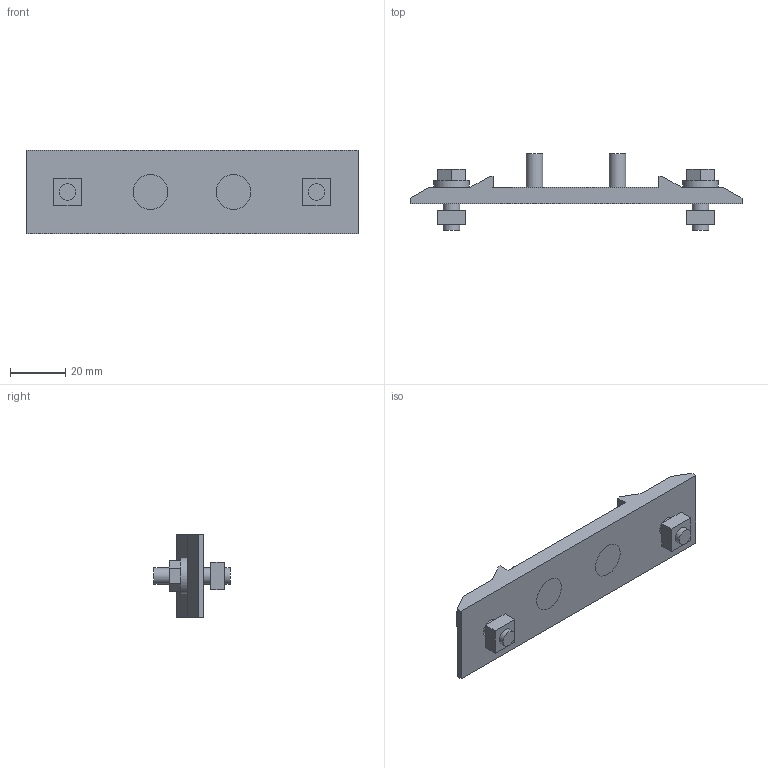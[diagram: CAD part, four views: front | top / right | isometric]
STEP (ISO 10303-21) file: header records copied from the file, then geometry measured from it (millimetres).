
FILE_DESCRIPTION((''),'2;1');
FILE_NAME('C:\Documents and Settings\古川典政\My Documents\Inventor\HP用\MasterData\BRACKET\M6\ABJF-6030-6.stp','2008-07-31T09:14:47',(''),(''),'Autodesk Inventor 2008','Autodesk Inventor 2008','');
FILE_SCHEMA(('CONFIG_CONTROL_DESIGN'));
Length unit declared in the file: millimetre
Products named in the file (8): ABJF-6030-6; ABJF-6030-61; ABJF-6030-62; ABJF-6030-63; ABJF-6030-64; ABJF-6030-65; ABJF-6030-66; ABJF-6030-67
Assembly tree (7 placements, depth 2):
  ABJF-6030-6
    ABJF-6030-61
    ABJF-6030-62
    ABJF-6030-63
    ABJF-6030-64
    ABJF-6030-65
    ABJF-6030-66
    ABJF-6030-67
Bounding box: 120 x 27.5 x 30 mm (x, y, z)
Volume: 24928 mm3; surface area: 13111.1 mm2
Topology: 7 solids, 7 shells, 72 faces, 160 edges, 108 vertices
Faces by surface type: plane 54, cylinder 10, bspline 5, cone 3
Full cylindrical faces by diameter (mm): 6 x4, 6.4 x2, 7 x2, 13 x2
Entity records: 2132 total; most frequent: CARTESIAN_POINT 406, DIRECTION 330, ORIENTED_EDGE 268, EDGE_CURVE 134, AXIS2_PLACEMENT_3D 114, EDGE_LOOP 108, VECTOR 102, LINE 102
